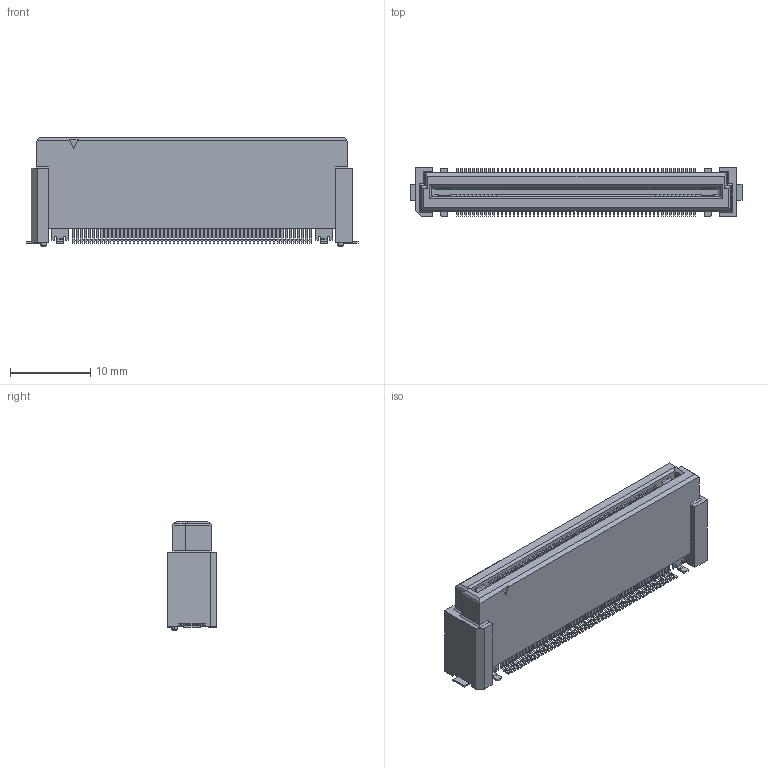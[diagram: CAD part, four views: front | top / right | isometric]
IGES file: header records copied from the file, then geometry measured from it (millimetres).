
Start section: Elysium IGES Interface
Global section: file name: 124HG:\その他\DT関連\DT_CADﾃﾞｰﾀ\DT_3DCAD(客先提出用)\プラグ\DT1XE(電源pin)\-15\DT11E-XXXS-15-T(WEB用)\P3E816_DT11E-120S-15-T.igs; native system: Creo Elements/Direct Modeling 20.6  25-Mar-2023; preprocessor: Creo Element/Direct IGES_3D V2.2; author: Unknown; organization: Unknown; date: 20240313.112709; units: millimetre
Bounding box: 41.4 x 6.2 x 13.63 mm (x, y, z)
Volume: 2049.9 mm3; surface area: 2174 mm2
Topology: 1 solids, 1 shells, 3785 faces, 10682 edges, 7028 vertices
Faces by surface type: bspline 3785
